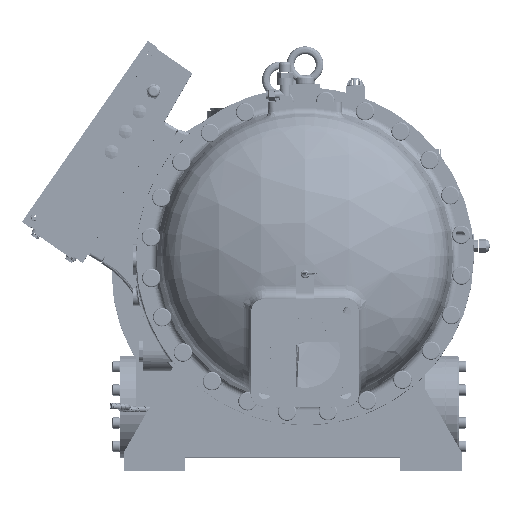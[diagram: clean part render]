
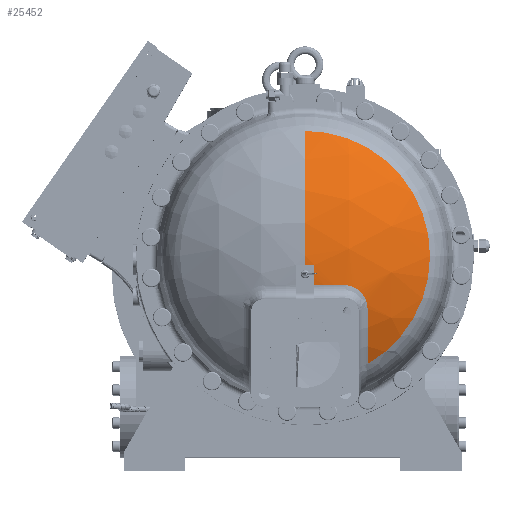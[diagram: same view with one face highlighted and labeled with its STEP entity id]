
A CAD part, top view. The second image highlights one B-rep face of the part: STEP entity #25452.
In plain terms, the highlighted spherical face has radius 354 mm.
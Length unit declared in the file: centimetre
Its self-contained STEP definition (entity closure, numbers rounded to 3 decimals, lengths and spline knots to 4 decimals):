
#2244 = CIRCLE ( 'NONE', #12075, 20.355 ) ;
#4558 = DIRECTION ( 'NONE',  ( 0., -1., 0. ) ) ;
#6009 = AXIS2_PLACEMENT_3D ( 'NONE', #9864, #89218, #21259 ) ;
#6837 = B_SPLINE_CURVE_WITH_KNOTS ( 'NONE', 3,
 ( #145621, #146125, #146157, #145491, #145466, #145295, #145161, #145008, #144981, #144804, #144656, #144510, #144487, #144307, #143818, #143671, #143507, #143349, #143017, #142835, #142685, #142654, #142542, #142517, #142349, #142165, #142049, #141851, #141687, #141582 ),
 .UNSPECIFIED., .F., .F.,
 ( 4, 2, 2, 2, 2, 2, 2, 2, 2, 2, 2, 2, 2, 2, 4 ),
 ( 0., 0.0039, 0.0078, 0.0155, 0.0194, 0.0213, 0.0233, 0.031, 0.0349, 0.0369, 0.0388, 0.0466, 0.0505, 0.0543, 0.0621 ),
 .UNSPECIFIED. ) ;
#9864 = CARTESIAN_POINT ( 'NONE',  ( -9.003, -2.3799, 15.75 ) ) ;
#11075 = ORIENTED_EDGE ( 'NONE', *, *, #140454, .F. ) ;
#12075 = AXIS2_PLACEMENT_3D ( 'NONE', #49149, #128145, #60557 ) ;
#14176 = VERTEX_POINT ( 'NONE', #29844 ) ;
#15992 = EDGE_CURVE ( 'NONE', #114587, #49775, #80796, .T. ) ;
#21259 = DIRECTION ( 'NONE',  ( 1., 0., 0. ) ) ;
#24712 = CARTESIAN_POINT ( 'NONE',  ( -2.614, -2.3799, 50.239 ) ) ;
#25452 = ADVANCED_FACE ( 'NONE', ( #38081 ), #121283, .T. ) ;
#26174 = DIRECTION ( 'NONE',  ( 1., 0., 0. ) ) ;
#29543 = CARTESIAN_POINT ( 'NONE',  ( -7.503, 0.9, 51.0864 ) ) ;
#29844 = CARTESIAN_POINT ( 'NONE',  ( -7.503, -2.3799, 50.7937 ) ) ;
#30356 = EDGE_CURVE ( 'NONE', #42439, #35957, #6837, .T. ) ;
#30635 = CIRCLE ( 'NONE', #147196, 35.3682 ) ;
#30778 = DIRECTION ( 'NONE',  ( -1., 0., 0. ) ) ;
#35887 = VERTEX_POINT ( 'NONE', #36174 ) ;
#35957 = VERTEX_POINT ( 'NONE', #24712 ) ;
#36174 = CARTESIAN_POINT ( 'NONE',  ( 11.352, 2.4, 44.7126 ) ) ;
#38081 = FACE_OUTER_BOUND ( 'NONE', #80419, .T. ) ;
#40622 = CARTESIAN_POINT ( 'NONE',  ( 1.1721, -6.166, 48.5562 ) ) ;
#42439 = VERTEX_POINT ( 'NONE', #40622 ) ;
#43657 = DIRECTION ( 'NONE',  ( 0., 1., 0. ) ) ;
#43701 = DIRECTION ( 'NONE',  ( 1., 0., 0. ) ) ;
#44112 = CARTESIAN_POINT ( 'NONE',  ( -9.003, 2.4, 15.75 ) ) ;
#44167 = ORIENTED_EDGE ( 'NONE', *, *, #80781, .F. ) ;
#44497 = CARTESIAN_POINT ( 'NONE',  ( -9.003, 2.4, 15.75 ) ) ;
#45021 = CIRCLE ( 'NONE', #91310, 35.4 ) ;
#46796 = CARTESIAN_POINT ( 'NONE',  ( 1.1721, -15.2293, 44.7126 ) ) ;
#49140 = CIRCLE ( 'NONE', #73720, 33.9061 ) ;
#49149 = CARTESIAN_POINT ( 'NONE',  ( -9.003, 2.4, 44.7126 ) ) ;
#49775 = VERTEX_POINT ( 'NONE', #74191 ) ;
#50259 = ORIENTED_EDGE ( 'NONE', *, *, #15992, .T. ) ;
#51999 = ORIENTED_EDGE ( 'NONE', *, *, #95935, .F. ) ;
#55554 = DIRECTION ( 'NONE',  ( 0., -1., 0. ) ) ;
#56209 = EDGE_CURVE ( 'NONE', #14176, #35957, #64999, .T. ) ;
#60416 = ORIENTED_EDGE ( 'NONE', *, *, #74044, .F. ) ;
#60557 = DIRECTION ( 'NONE',  ( -1., 0., 0. ) ) ;
#61298 = CARTESIAN_POINT ( 'NONE',  ( -9.003, 22.755, 44.7126 ) ) ;
#63690 = CARTESIAN_POINT ( 'NONE',  ( -9.003, 2.4, 44.7126 ) ) ;
#64999 = CIRCLE ( 'NONE', #6009, 35.0758 ) ;
#66925 = CIRCLE ( 'NONE', #69097, 35.3682 ) ;
#69097 = AXIS2_PLACEMENT_3D ( 'NONE', #98669, #30778, #110067 ) ;
#69125 = VERTEX_POINT ( 'NONE', #29543 ) ;
#71241 = ORIENTED_EDGE ( 'NONE', *, *, #76859, .F. ) ;
#72629 = CARTESIAN_POINT ( 'NONE',  ( -9.003, 0.9, 15.75 ) ) ;
#73720 = AXIS2_PLACEMENT_3D ( 'NONE', #94102, #26174, #105452 ) ;
#74044 = EDGE_CURVE ( 'NONE', #14176, #69125, #66925, .T. ) ;
#74191 = CARTESIAN_POINT ( 'NONE',  ( -9.003, 0.9, 51.1182 ) ) ;
#74903 = DIRECTION ( 'NONE',  ( -1., 0., 0. ) ) ;
#76859 = EDGE_CURVE ( 'NONE', #69125, #49775, #30635, .T. ) ;
#76900 = AXIS2_PLACEMENT_3D ( 'NONE', #94113, #97206, #92952 ) ;
#80419 = EDGE_LOOP ( 'NONE', ( #11075, #50259, #71241, #60416, #122150, #84842, #116662, #44167, #51999 ) ) ;
#80781 = EDGE_CURVE ( 'NONE', #35887, #134623, #137569, .T. ) ;
#80796 = CIRCLE ( 'NONE', #101543, 35.4 ) ;
#83986 = DIRECTION ( 'NONE',  ( -1., 0., 0. ) ) ;
#84842 = ORIENTED_EDGE ( 'NONE', *, *, #30356, .F. ) ;
#89218 = DIRECTION ( 'NONE',  ( 0., 1., 0. ) ) ;
#91310 = AXIS2_PLACEMENT_3D ( 'NONE', #44112, #123172, #55554 ) ;
#92952 = DIRECTION ( 'NONE',  ( 0., 1., 0. ) ) ;
#94102 = CARTESIAN_POINT ( 'NONE',  ( 1.1721, 2.4, 15.75 ) ) ;
#94113 = CARTESIAN_POINT ( 'NONE',  ( -9.003, 2.4, 15.75 ) ) ;
#95935 = EDGE_CURVE ( 'NONE', #106873, #35887, #2244, .T. ) ;
#97206 = DIRECTION ( 'NONE',  ( 1., 0., 0. ) ) ;
#98669 = CARTESIAN_POINT ( 'NONE',  ( -7.503, 2.4, 15.75 ) ) ;
#101543 = AXIS2_PLACEMENT_3D ( 'NONE', #44497, #43701, #43657 ) ;
#105452 = DIRECTION ( 'NONE',  ( 0., 1., 0. ) ) ;
#106325 = EDGE_CURVE ( 'NONE', #42439, #134623, #49140, .T. ) ;
#106873 = VERTEX_POINT ( 'NONE', #61298 ) ;
#110067 = DIRECTION ( 'NONE',  ( 0., 1., 0. ) ) ;
#110465 = AXIS2_PLACEMENT_3D ( 'NONE', #63690, #142794, #74903 ) ;
#114587 = VERTEX_POINT ( 'NONE', #124963 ) ;
#116662 = ORIENTED_EDGE ( 'NONE', *, *, #106325, .T. ) ;
#121283 = SPHERICAL_SURFACE ( 'NONE', #76900, 35.4 ) ;
#122150 = ORIENTED_EDGE ( 'NONE', *, *, #56209, .T. ) ;
#123172 = DIRECTION ( 'NONE',  ( -1., 0., 0. ) ) ;
#124963 = CARTESIAN_POINT ( 'NONE',  ( -9.003, 2.4, 51.15 ) ) ;
#128145 = DIRECTION ( 'NONE',  ( 0., 0., -1. ) ) ;
#134623 = VERTEX_POINT ( 'NONE', #46796 ) ;
#137569 = CIRCLE ( 'NONE', #110465, 20.355 ) ;
#140454 = EDGE_CURVE ( 'NONE', #114587, #106873, #45021, .T. ) ;
#141582 = CARTESIAN_POINT ( 'NONE',  ( -2.614, -2.3799, 50.239 ) ) ;
#141687 = CARTESIAN_POINT ( 'NONE',  ( -2.3583, -2.3799, 50.1916 ) ) ;
#141851 = CARTESIAN_POINT ( 'NONE',  ( -2.1082, -2.4056, 50.1389 ) ) ;
#142049 = CARTESIAN_POINT ( 'NONE',  ( -1.7411, -2.4798, 50.052 ) ) ;
#142165 = CARTESIAN_POINT ( 'NONE',  ( -1.6201, -2.5106, 50.0218 ) ) ;
#142349 = CARTESIAN_POINT ( 'NONE',  ( -1.3807, -2.5843, 49.9587 ) ) ;
#142517 = CARTESIAN_POINT ( 'NONE',  ( -1.262, -2.6274, 49.9257 ) ) ;
#142542 = CARTESIAN_POINT ( 'NONE',  ( -0.9176, -2.7721, 49.825 ) ) ;
#142654 = CARTESIAN_POINT ( 'NONE',  ( -0.7007, -2.8896, 49.7547 ) ) ;
#142685 = CARTESIAN_POINT ( 'NONE',  ( -0.4452, -3.062, 49.663 ) ) ;
#142794 = DIRECTION ( 'NONE',  ( 0., 0., -1. ) ) ;
#142835 = CARTESIAN_POINT ( 'NONE',  ( -0.3949, -3.0978, 49.6445 ) ) ;
#143017 = CARTESIAN_POINT ( 'NONE',  ( -0.2958, -3.172, 49.6071 ) ) ;
#143349 = CARTESIAN_POINT ( 'NONE',  ( -0.247, -3.2104, 49.5881 ) ) ;
#143507 = CARTESIAN_POINT ( 'NONE',  ( -0.1038, -3.329, 49.531 ) ) ;
#143671 = CARTESIAN_POINT ( 'NONE',  ( -0.013, -3.4121, 49.4928 ) ) ;
#143818 = CARTESIAN_POINT ( 'NONE',  ( 0.2459, -3.6729, 49.3774 ) ) ;
#144307 = CARTESIAN_POINT ( 'NONE',  ( 0.4005, -3.8622, 49.2997 ) ) ;
#144487 = CARTESIAN_POINT ( 'NONE',  ( 0.5711, -4.1183, 49.2016 ) ) ;
#144510 = CARTESIAN_POINT ( 'NONE',  ( 0.6042, -4.1706, 49.1819 ) ) ;
#144656 = CARTESIAN_POINT ( 'NONE',  ( 0.6676, -4.2767, 49.1426 ) ) ;
#144804 = CARTESIAN_POINT ( 'NONE',  ( 0.6979, -4.3303, 49.123 ) ) ;
#144981 = CARTESIAN_POINT ( 'NONE',  ( 0.7846, -4.493, 49.0646 ) ) ;
#145008 = CARTESIAN_POINT ( 'NONE',  ( 0.8369, -4.6037, 49.0261 ) ) ;
#145161 = CARTESIAN_POINT ( 'NONE',  ( 0.9773, -4.9426, 48.9118 ) ) ;
#145295 = CARTESIAN_POINT ( 'NONE',  ( 1.0493, -5.1775, 48.8372 ) ) ;
#145466 = CARTESIAN_POINT ( 'NONE',  ( 1.1228, -5.5441, 48.7278 ) ) ;
#145491 = CARTESIAN_POINT ( 'NONE',  ( 1.1412, -5.6674, 48.6922 ) ) ;
#145621 = CARTESIAN_POINT ( 'NONE',  ( 1.1721, -6.166, 48.5562 ) ) ;
#146125 = CARTESIAN_POINT ( 'NONE',  ( 1.1721, -6.0403, 48.5891 ) ) ;
#146157 = CARTESIAN_POINT ( 'NONE',  ( 1.1659, -5.9154, 48.6228 ) ) ;
#147196 = AXIS2_PLACEMENT_3D ( 'NONE', #72629, #4558, #83986 ) ;
